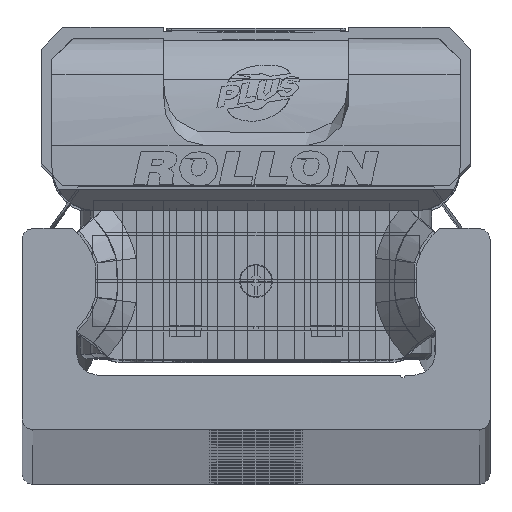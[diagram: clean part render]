
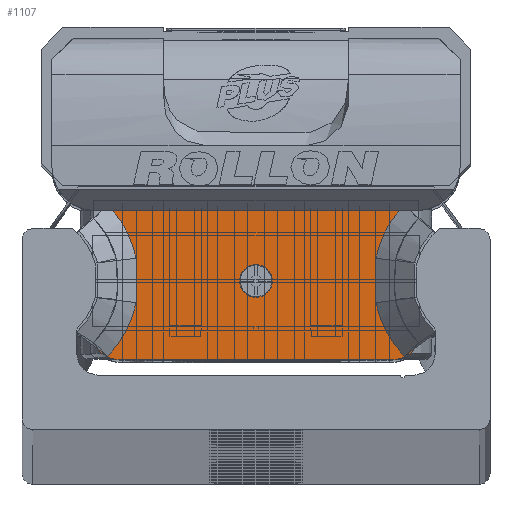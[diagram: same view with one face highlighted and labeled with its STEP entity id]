
A CAD part, top view. The second image highlights one B-rep face of the part: STEP entity #1107.
In plain terms, the highlighted planar face has unit normal (0, 0, 1) as drawn and (0, 0, -1) by its records, which use the part's own axes.
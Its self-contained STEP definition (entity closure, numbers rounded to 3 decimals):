
#1107 = ADVANCED_FACE( '', ( #2756, #2757 ), #2758, .F. );
#2756 = FACE_BOUND( '', #5217, .T. );
#2757 = FACE_OUTER_BOUND( '', #5218, .T. );
#2758 = PLANE( '', #5219 );
#5217 = EDGE_LOOP( '', ( #8361 ) );
#5218 = EDGE_LOOP( '', ( #8362, #8363, #8364, #8365, #8366, #8367, #8368, #8369, #8370, #8371, #8372, #8373 ) );
#5219 = AXIS2_PLACEMENT_3D( '', #8374, #8375, #8376 );
#8361 = ORIENTED_EDGE( '', *, *, #14012, .T. );
#8362 = ORIENTED_EDGE( '', *, *, #14013, .T. );
#8363 = ORIENTED_EDGE( '', *, *, #14014, .F. );
#8364 = ORIENTED_EDGE( '', *, *, #13478, .T. );
#8365 = ORIENTED_EDGE( '', *, *, #14015, .F. );
#8366 = ORIENTED_EDGE( '', *, *, #13752, .T. );
#8367 = ORIENTED_EDGE( '', *, *, #14016, .T. );
#8368 = ORIENTED_EDGE( '', *, *, #13759, .T. );
#8369 = ORIENTED_EDGE( '', *, *, #14017, .T. );
#8370 = ORIENTED_EDGE( '', *, *, #14018, .T. );
#8371 = ORIENTED_EDGE( '', *, *, #14019, .T. );
#8372 = ORIENTED_EDGE( '', *, *, #14020, .T. );
#8373 = ORIENTED_EDGE( '', *, *, #14021, .T. );
#8374 = CARTESIAN_POINT( '', ( 14.9, 7.35, -13.25 ) );
#8375 = DIRECTION( '', ( 0., 0., 1. ) );
#8376 = DIRECTION( '', ( 1., 0., 0. ) );
#13478 = EDGE_CURVE( '', #15875, #15873, #15876, .T. );
#13752 = EDGE_CURVE( '', #16050, #16355, #16357, .T. );
#13759 = EDGE_CURVE( '', #16368, #16366, #16369, .T. );
#14012 = EDGE_CURVE( '', #16792, #16792, #16793, .T. );
#14013 = EDGE_CURVE( '', #16794, #16795, #16796, .T. );
#14014 = EDGE_CURVE( '', #15875, #16795, #16797, .T. );
#14015 = EDGE_CURVE( '', #16050, #15873, #16798, .T. );
#14016 = EDGE_CURVE( '', #16355, #16368, #16799, .T. );
#14017 = EDGE_CURVE( '', #16366, #16800, #16801, .T. );
#14018 = EDGE_CURVE( '', #16800, #16802, #16803, .T. );
#14019 = EDGE_CURVE( '', #16802, #16804, #16805, .T. );
#14020 = EDGE_CURVE( '', #16804, #16806, #16807, .T. );
#14021 = EDGE_CURVE( '', #16806, #16794, #16808, .T. );
#15873 = VERTEX_POINT( '', #19408 );
#15875 = VERTEX_POINT( '', #19411 );
#15876 = LINE( '', #19412, #19413 );
#16050 = VERTEX_POINT( '', #19665 );
#16355 = VERTEX_POINT( '', #20051 );
#16357 = B_SPLINE_CURVE_WITH_KNOTS( '', 1, ( #20054, #20055 ), .UNSPECIFIED., .F., .F., ( 2, 2 ), ( 0., 1. ), .UNSPECIFIED. );
#16366 = VERTEX_POINT( '', #20068 );
#16368 = VERTEX_POINT( '', #20071 );
#16369 = B_SPLINE_CURVE_WITH_KNOTS( '', 2, ( #20072, #20073, #20074 ), .UNSPECIFIED., .F., .F., ( 3, 3 ), ( 0., 1. ), .UNSPECIFIED. );
#16792 = VERTEX_POINT( '', #20619 );
#16793 = CIRCLE( '', #20620, 1.5 );
#16794 = VERTEX_POINT( '', #20621 );
#16795 = VERTEX_POINT( '', #20622 );
#16796 = B_SPLINE_CURVE_WITH_KNOTS( '', 1, ( #20623, #20624 ), .UNSPECIFIED., .F., .F., ( 2, 2 ), ( 0., 1. ), .UNSPECIFIED. );
#16797 = CIRCLE( '', #20625, 2.5 );
#16798 = CIRCLE( '', #20626, 2.5 );
#16799 = B_SPLINE_CURVE_WITH_KNOTS( '', 2, ( #20627, #20628, #20629, #20630, #20631 ), .UNSPECIFIED., .F., .F., ( 3, 2, 3 ), ( 0., 0.5, 1. ), .UNSPECIFIED. );
#16800 = VERTEX_POINT( '', #20632 );
#16801 = B_SPLINE_CURVE_WITH_KNOTS( '', 2, ( #20633, #20634, #20635, #20636, #20637 ), .UNSPECIFIED., .F., .F., ( 3, 2, 3 ), ( 0., 0.5, 0.868 ), .UNSPECIFIED. );
#16802 = VERTEX_POINT( '', #20638 );
#16803 = LINE( '', #20639, #20640 );
#16804 = VERTEX_POINT( '', #20641 );
#16805 = B_SPLINE_CURVE_WITH_KNOTS( '', 2, ( #20642, #20643, #20644, #20645, #20646 ), .UNSPECIFIED., .F., .F., ( 3, 2, 3 ), ( 0.133, 0.5, 1. ), .UNSPECIFIED. );
#16806 = VERTEX_POINT( '', #20647 );
#16807 = B_SPLINE_CURVE_WITH_KNOTS( '', 2, ( #20648, #20649, #20650 ), .UNSPECIFIED., .F., .F., ( 3, 3 ), ( 0., 1. ), .UNSPECIFIED. );
#16808 = B_SPLINE_CURVE_WITH_KNOTS( '', 2, ( #20651, #20652, #20653, #20654, #20655 ), .UNSPECIFIED., .F., .F., ( 3, 2, 3 ), ( 0., 0.5, 1. ), .UNSPECIFIED. );
#19408 = CARTESIAN_POINT( '', ( -12.58, -7.3, -13.25 ) );
#19411 = CARTESIAN_POINT( '', ( 12.58, -7.3, -13.25 ) );
#19412 = CARTESIAN_POINT( '', ( 12.58, -7.3, -13.25 ) );
#19413 = VECTOR( '', #24238, 1000. );
#19665 = CARTESIAN_POINT( '', ( -14.904, -5.718, -13.25 ) );
#20051 = CARTESIAN_POINT( '', ( -13.628, -6.965, -13.25 ) );
#20054 = CARTESIAN_POINT( '', ( -14.915, -5.713, -13.25 ) );
#20055 = CARTESIAN_POINT( '', ( -13.628, -6.965, -13.25 ) );
#20068 = CARTESIAN_POINT( '', ( -11.012, 2.045, -13.25 ) );
#20071 = CARTESIAN_POINT( '', ( -11.012, -2.045, -13.25 ) );
#20072 = CARTESIAN_POINT( '', ( -11.012, -2.045, -13.25 ) );
#20073 = CARTESIAN_POINT( '', ( -10.888, 0., -13.25 ) );
#20074 = CARTESIAN_POINT( '', ( -11.012, 2.045, -13.25 ) );
#20619 = CARTESIAN_POINT( '', ( 1.5, -0.05, -13.25 ) );
#20620 = AXIS2_PLACEMENT_3D( '', #24967, #24968, #24969 );
#20621 = CARTESIAN_POINT( '', ( 13.628, -6.965, -13.25 ) );
#20622 = CARTESIAN_POINT( '', ( 14.906, -5.717, -13.25 ) );
#20623 = CARTESIAN_POINT( '', ( 13.628, -6.965, -13.25 ) );
#20624 = CARTESIAN_POINT( '', ( 14.9, -5.728, -13.25 ) );
#20625 = AXIS2_PLACEMENT_3D( '', #24970, #24971, #24972 );
#20626 = AXIS2_PLACEMENT_3D( '', #24973, #24974, #24975 );
#20627 = CARTESIAN_POINT( '', ( -13.628, -6.965, -13.25 ) );
#20628 = CARTESIAN_POINT( '', ( -12.638, -5.946, -13.25 ) );
#20629 = CARTESIAN_POINT( '', ( -11.97, -4.691, -13.25 ) );
#20630 = CARTESIAN_POINT( '', ( -11.303, -3.437, -13.25 ) );
#20631 = CARTESIAN_POINT( '', ( -11.012, -2.045, -13.25 ) );
#20632 = CARTESIAN_POINT( '', ( -13.119, 6.4, -13.25 ) );
#20633 = CARTESIAN_POINT( '', ( -11.012, 2.045, -13.25 ) );
#20634 = CARTESIAN_POINT( '', ( -11.302, 3.432, -13.25 ) );
#20635 = CARTESIAN_POINT( '', ( -11.967, 4.685, -13.25 ) );
#20636 = CARTESIAN_POINT( '', ( -12.456, 5.606, -13.25 ) );
#20637 = CARTESIAN_POINT( '', ( -13.119, 6.4, -13.25 ) );
#20638 = CARTESIAN_POINT( '', ( 13.12, 6.4, -13.25 ) );
#20639 = CARTESIAN_POINT( '', ( 14.9, 6.4, -13.25 ) );
#20640 = VECTOR( '', #24976, 1000. );
#20641 = CARTESIAN_POINT( '', ( 11.012, 2.045, -13.25 ) );
#20642 = CARTESIAN_POINT( '', ( 13.119, 6.4, -13.25 ) );
#20643 = CARTESIAN_POINT( '', ( 12.459, 5.608, -13.25 ) );
#20644 = CARTESIAN_POINT( '', ( 11.968, 4.684, -13.25 ) );
#20645 = CARTESIAN_POINT( '', ( 11.301, 3.427, -13.25 ) );
#20646 = CARTESIAN_POINT( '', ( 11.012, 2.045, -13.25 ) );
#20647 = CARTESIAN_POINT( '', ( 11.012, -2.045, -13.25 ) );
#20648 = CARTESIAN_POINT( '', ( 11.012, 2.045, -13.25 ) );
#20649 = CARTESIAN_POINT( '', ( 10.888, 0., -13.25 ) );
#20650 = CARTESIAN_POINT( '', ( 11.012, -2.045, -13.25 ) );
#20651 = CARTESIAN_POINT( '', ( 11.012, -2.045, -13.25 ) );
#20652 = CARTESIAN_POINT( '', ( 11.301, -3.43, -13.25 ) );
#20653 = CARTESIAN_POINT( '', ( 11.972, -4.69, -13.25 ) );
#20654 = CARTESIAN_POINT( '', ( 12.642, -5.95, -13.25 ) );
#20655 = CARTESIAN_POINT( '', ( 13.628, -6.965, -13.25 ) );
#24238 = DIRECTION( '', ( -1., 0., 0. ) );
#24967 = CARTESIAN_POINT( '', ( 0., -0.05, -13.25 ) );
#24968 = DIRECTION( '', ( 0., 0., 1. ) );
#24969 = DIRECTION( '', ( 1., 0., 0. ) );
#24970 = CARTESIAN_POINT( '', ( 12.58, -4.8, -13.25 ) );
#24971 = DIRECTION( '', ( 0., 0., 1. ) );
#24972 = DIRECTION( '', ( 1., 0., 0. ) );
#24973 = CARTESIAN_POINT( '', ( -12.58, -4.8, -13.25 ) );
#24974 = DIRECTION( '', ( 0., 0., 1. ) );
#24975 = DIRECTION( '', ( 1., 0., 0. ) );
#24976 = DIRECTION( '', ( 1., 0., 0. ) );
